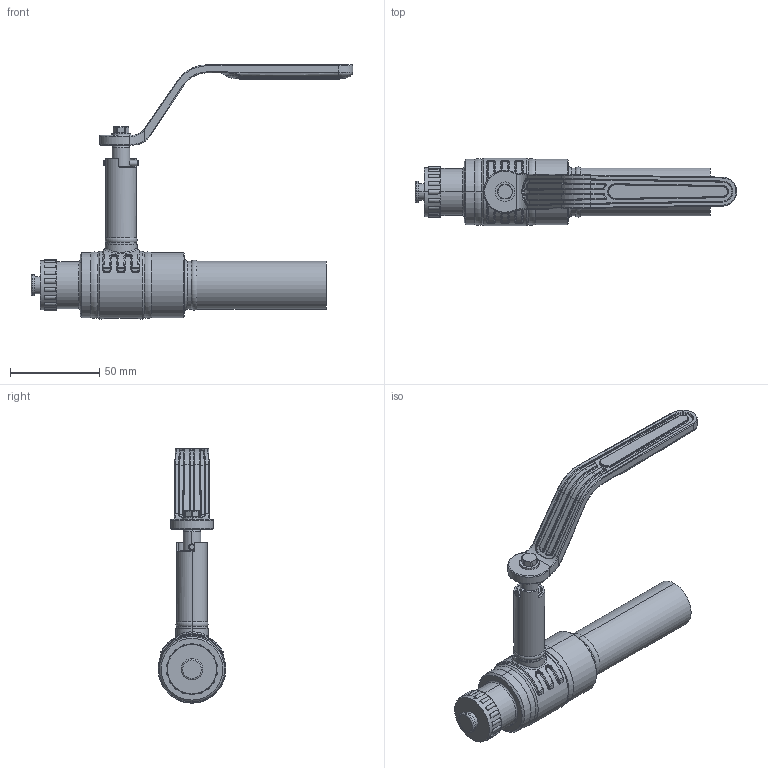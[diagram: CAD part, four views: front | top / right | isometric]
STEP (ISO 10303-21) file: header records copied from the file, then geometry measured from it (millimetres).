
FILE_DESCRIPTION((''),'2;1');
FILE_NAME('KHO-20R15-SZ-R-H-KK','2022-10-18T15:14:12',('jeitlers'),('KLINGER'),'CREO PARAMETRIC BY PTC INC, 2020184','CREO PARAMETRIC BY PTC INC, 2020184','');
FILE_SCHEMA(('AUTOMOTIVE_DESIGN { 1 0 10303 214 1 1 1 1 }'));
Length unit declared in the file: millimetre
Products named in the file (1): KHO-20R15-SZ-R-H-KK
Bounding box: 180.4 x 38 x 142.6 mm (x, y, z)
Volume: 102394.1 mm3; surface area: 48691.2 mm2
Topology: 1 solids, 1 shells, 689 faces, 1703 edges, 1017 vertices
Faces by surface type: cylinder 263, plane 122, bspline 112, torus 95, cone 78, sphere 14, extrusion 5
Entity records: 39727 total; most frequent: CARTESIAN_POINT 23248, ORIENTED_EDGE 3376, DIRECTION 3215, EDGE_CURVE 1688, AXIS2_PLACEMENT_3D 1348, VERTEX_POINT 1017, CIRCLE 762, EDGE_LOOP 719
